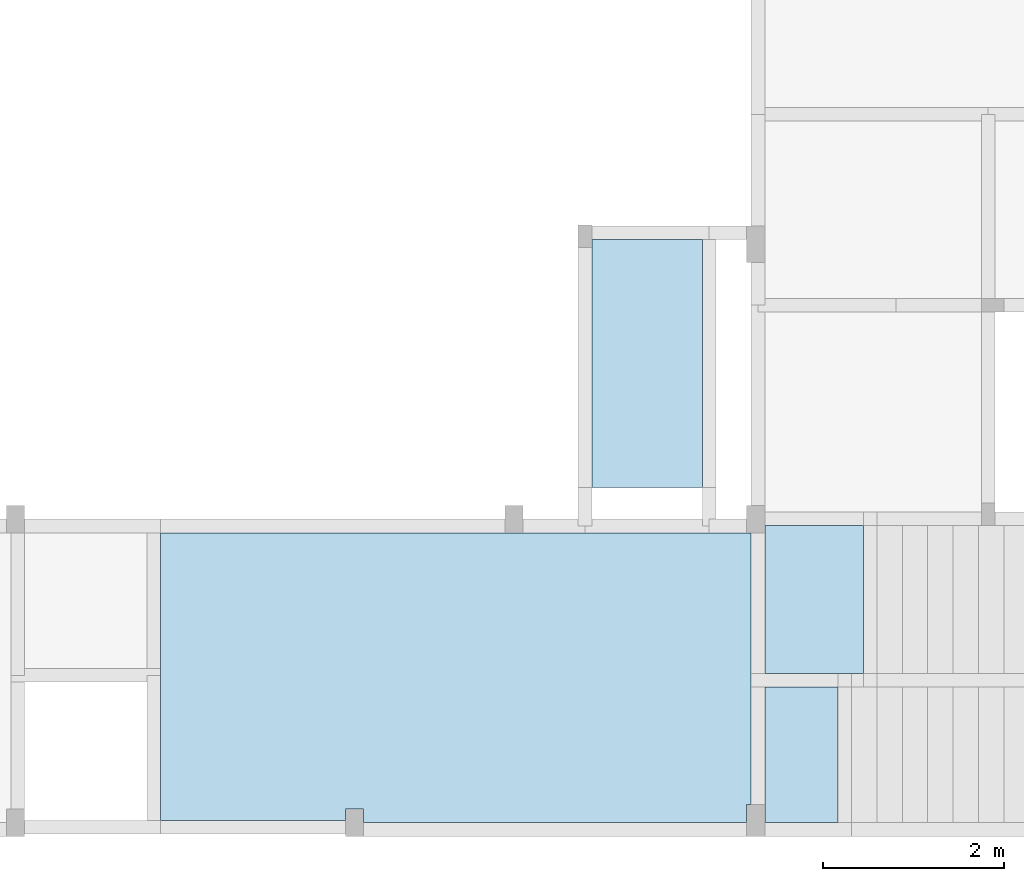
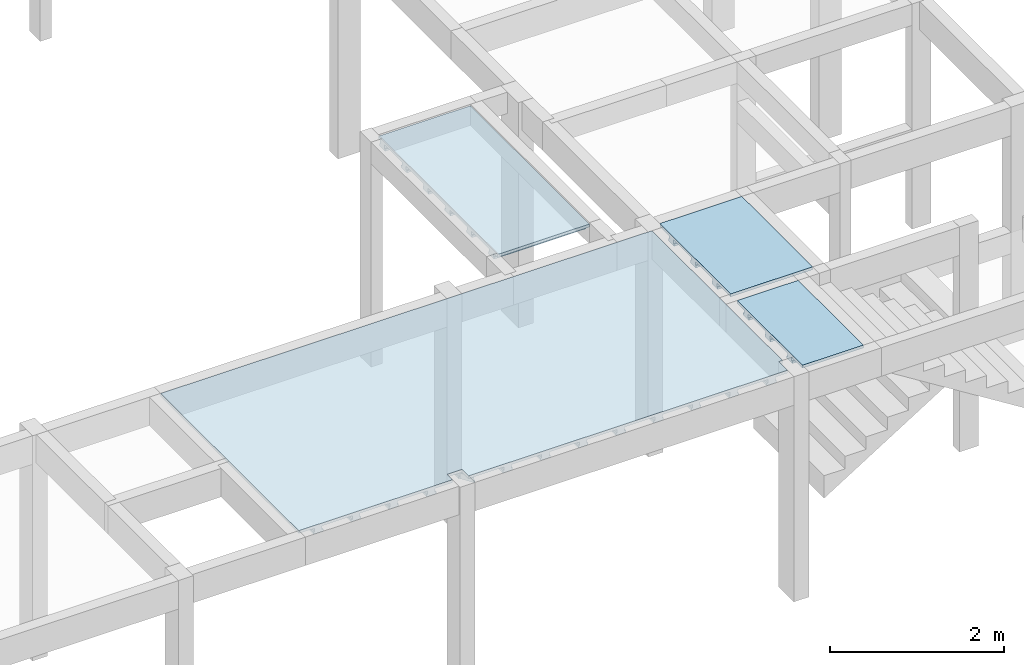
# One storey, part 6 of 11: 4 slabs.
"""IFC4 building model written with IfcOpenShell, lengths in centimetres."""

from ifc_helpers import new_model, si_unit, derived_unit, frame, origin_with_axes, place, context, project, spatial, polyline, outline, extrude, faceted_brep, material, element, save


model = new_model("IFC4")

# Units and contexts
model_context = context("Model", 3, precision=1e-05, world=origin_with_axes(), identifier="Body")
ifc_project = project(units=[si_unit("LENGTHUNIT", "METRE", prefix="CENTI"), si_unit("VOLUMEUNIT", "CUBIC_METRE"), si_unit("AREAUNIT", "SQUARE_METRE"), si_unit("POWERUNIT", "WATT"), si_unit("LUMINOUSFLUXUNIT", "LUMEN"), si_unit("ELECTRICCURRENTUNIT", "AMPERE"), si_unit("PRESSUREUNIT", "PASCAL", prefix="KILO"), si_unit("MASSUNIT", "GRAM", prefix="KILO"), si_unit("PLANEANGLEUNIT", "RADIAN"), derived_unit("VOLUMETRICFLOWRATEUNIT", [(si_unit("LENGTHUNIT", "METRE"), 3), (si_unit("TIMEUNIT", "SECOND"), -1)])], contexts=[model_context])

# Site, building, storey
site_placement = place(None, origin_with_axes())
site = spatial("IfcSite", under=ifc_project, at=site_placement)
building_placement = place(site_placement, frame((0.0, 0.0, -295.0)))
building = spatial("IfcBuilding", under=site, at=building_placement)
placement_1 = place(building_placement, origin_with_axes())
placement_2 = place(placement_1, frame((0.0, 0.0, 101.0), z_axis=(0.0, 0.0, 1.0), x_axis=(1.0, 0.0, 0.0)))
placement_3 = place(placement_2, frame((0.0, 0.0, 204.0), z_axis=(0.0, 0.0, 1.0), x_axis=(1.0, 0.0, 0.0)))
storey_placement = place(placement_3, frame((0.0, 0.0, 292.0), z_axis=(0.0, 0.0, 1.0), x_axis=(1.0, 0.0, 0.0)))
storey = spatial("IfcBuildingStorey", under=building, at=storey_placement, Name="PAVTO 01", CompositionType="ELEMENT", Elevation=302.0)

# Slabs
ifc_material = material(Name="Concreto")
slab_1_placement = place(storey_placement, frame((3390.7205, -6657.4055, -2.0), z_axis=(0.0, 0.0, 1.0), x_axis=(1.0, 0.0, 0.0)))
element("IfcSlab", 1, at=slab_1_placement, inside=storey, material=ifc_material, Name="L111", PredefinedType="FLOOR", context=model_context, shape_type="SolidModel", body=[
    extrude(outline(polyline([(60.989, 136.854), (-60.989, 136.854), (-60.989, -136.855), (60.99, -136.855), (60.989, 136.854), (60.989, 136.854)])), frame((-0.0005, 0.0005, -4.0), z_axis=(0.0, 0.0, 1.0), x_axis=(1.0, 0.0, 0.0)), (0.0, 0.0, 1.0), 4.0),
    faceted_brep([(-60.9895, -116.8545, -12.0), (60.989, -116.8545, -12.0), (60.989, -126.8545, -12.0), (-60.9895, -126.8545, -12.0), (-60.9895, -126.8545, -4.0), (60.989, -126.8545, -4.0), (60.989, -116.8545, -4.0), (-60.9895, -116.8545, -4.0)], [[[0, 1, 2, 3]], [[4, 5, 6, 7]], [[4, 3, 5]], [[3, 2, 5]], [[5, 2, 6]], [[2, 1, 6]], [[6, 1, 7]], [[1, 0, 7]], [[7, 0, 4]], [[0, 3, 4]]]),
    faceted_brep([(-60.9895, -115.3545, -12.0), (60.989, -115.3545, -12.0), (60.989, -116.8545, -12.0), (-60.9895, -116.8545, -12.0), (-60.9895, -116.8545, -9.0), (60.989, -116.8545, -9.0), (60.989, -115.3545, -9.0), (-60.9895, -115.3545, -9.0)], [[[0, 1, 2, 3]], [[4, 5, 6, 7]], [[4, 3, 5]], [[3, 2, 5]], [[5, 2, 6]], [[2, 1, 6]], [[6, 1, 7]], [[1, 0, 7]], [[7, 0, 4]], [[0, 3, 4]]]),
    faceted_brep([(-60.9895, -126.8545, -12.0), (60.989, -126.8545, -12.0), (60.989, -128.3545, -12.0), (-60.9895, -128.3545, -12.0), (-60.9895, -128.3545, -9.0), (60.989, -128.3545, -9.0), (60.989, -126.8545, -9.0), (-60.9895, -126.8545, -9.0)], [[[0, 1, 2, 3]], [[4, 5, 6, 7]], [[4, 3, 5]], [[3, 2, 5]], [[5, 2, 6]], [[2, 1, 6]], [[6, 1, 7]], [[1, 0, 7]], [[7, 0, 4]], [[0, 3, 4]]]),
    faceted_brep([(-60.9895, -66.8545, -12.0), (60.989, -66.8545, -12.0), (60.989, -76.8545, -12.0), (-60.9895, -76.8545, -12.0), (-60.9895, -76.8545, -4.0), (60.989, -76.8545, -4.0), (60.989, -66.8545, -4.0), (-60.9895, -66.8545, -4.0)], [[[0, 1, 2, 3]], [[4, 5, 6, 7]], [[4, 3, 5]], [[3, 2, 5]], [[5, 2, 6]], [[2, 1, 6]], [[6, 1, 7]], [[1, 0, 7]], [[7, 0, 4]], [[0, 3, 4]]]),
    faceted_brep([(-60.9895, -65.3545, -12.0), (60.989, -65.3545, -12.0), (60.989, -66.8545, -12.0), (-60.9895, -66.8545, -12.0), (-60.9895, -66.8545, -9.0), (60.989, -66.8545, -9.0), (60.989, -65.3545, -9.0), (-60.9895, -65.3545, -9.0)], [[[0, 1, 2, 3]], [[4, 5, 6, 7]], [[4, 3, 5]], [[3, 2, 5]], [[5, 2, 6]], [[2, 1, 6]], [[6, 1, 7]], [[1, 0, 7]], [[7, 0, 4]], [[0, 3, 4]]]),
    faceted_brep([(-60.9895, -76.8545, -12.0), (60.989, -76.8545, -12.0), (60.989, -78.3545, -12.0), (-60.9895, -78.3545, -12.0), (-60.9895, -78.3545, -9.0), (60.989, -78.3545, -9.0), (60.989, -76.8545, -9.0), (-60.9895, -76.8545, -9.0)], [[[0, 1, 2, 3]], [[4, 5, 6, 7]], [[4, 3, 5]], [[3, 2, 5]], [[5, 2, 6]], [[2, 1, 6]], [[6, 1, 7]], [[1, 0, 7]], [[7, 0, 4]], [[0, 3, 4]]]),
    faceted_brep([(-60.9895, -16.8545, -12.0), (60.989, -16.8545, -12.0), (60.989, -26.8545, -12.0), (-60.9895, -26.8545, -12.0), (-60.9895, -26.8545, -4.0), (60.989, -26.8545, -4.0), (60.989, -16.8545, -4.0), (-60.9895, -16.8545, -4.0)], [[[0, 1, 2, 3]], [[4, 5, 6, 7]], [[4, 3, 5]], [[3, 2, 5]], [[5, 2, 6]], [[2, 1, 6]], [[6, 1, 7]], [[1, 0, 7]], [[7, 0, 4]], [[0, 3, 4]]]),
    faceted_brep([(-60.9895, -15.3545, -12.0), (60.989, -15.3545, -12.0), (60.989, -16.8545, -12.0), (-60.9895, -16.8545, -12.0), (-60.9895, -16.8545, -9.0), (60.989, -16.8545, -9.0), (60.989, -15.3545, -9.0), (-60.9895, -15.3545, -9.0)], [[[0, 1, 2, 3]], [[4, 5, 6, 7]], [[4, 3, 5]], [[3, 2, 5]], [[5, 2, 6]], [[2, 1, 6]], [[6, 1, 7]], [[1, 0, 7]], [[7, 0, 4]], [[0, 3, 4]]]),
    faceted_brep([(-60.9895, -26.8545, -12.0), (60.989, -26.8545, -12.0), (60.989, -28.3545, -12.0), (-60.9895, -28.3545, -12.0), (-60.9895, -28.3545, -9.0), (60.989, -28.3545, -9.0), (60.989, -26.8545, -9.0), (-60.9895, -26.8545, -9.0)], [[[0, 1, 2, 3]], [[4, 5, 6, 7]], [[4, 3, 5]], [[3, 2, 5]], [[5, 2, 6]], [[2, 1, 6]], [[6, 1, 7]], [[1, 0, 7]], [[7, 0, 4]], [[0, 3, 4]]]),
    faceted_brep([(-60.9895, 33.1455, -12.0), (60.989, 33.1455, -12.0), (60.989, 23.1455, -12.0), (-60.9895, 23.1455, -12.0), (-60.9895, 23.1455, -4.0), (60.989, 23.1455, -4.0), (60.989, 33.1455, -4.0), (-60.9895, 33.1455, -4.0)], [[[0, 1, 2, 3]], [[4, 5, 6, 7]], [[4, 3, 5]], [[3, 2, 5]], [[5, 2, 6]], [[2, 1, 6]], [[6, 1, 7]], [[1, 0, 7]], [[7, 0, 4]], [[0, 3, 4]]]),
    faceted_brep([(-60.9895, 34.6455, -12.0), (60.989, 34.6455, -12.0), (60.989, 33.1455, -12.0), (-60.9895, 33.1455, -12.0), (-60.9895, 33.1455, -9.0), (60.989, 33.1455, -9.0), (60.989, 34.6455, -9.0), (-60.9895, 34.6455, -9.0)], [[[0, 1, 2, 3]], [[4, 5, 6, 7]], [[4, 3, 5]], [[3, 2, 5]], [[5, 2, 6]], [[2, 1, 6]], [[6, 1, 7]], [[1, 0, 7]], [[7, 0, 4]], [[0, 3, 4]]]),
    faceted_brep([(-60.9895, 23.1455, -12.0), (60.989, 23.1455, -12.0), (60.989, 21.6455, -12.0), (-60.9895, 21.6455, -12.0), (-60.9895, 21.6455, -9.0), (60.989, 21.6455, -9.0), (60.989, 23.1455, -9.0), (-60.9895, 23.1455, -9.0)], [[[0, 1, 2, 3]], [[4, 5, 6, 7]], [[4, 3, 5]], [[3, 2, 5]], [[5, 2, 6]], [[2, 1, 6]], [[6, 1, 7]], [[1, 0, 7]], [[7, 0, 4]], [[0, 3, 4]]]),
    faceted_brep([(-60.9895, 83.1455, -12.0), (60.989, 83.1455, -12.0), (60.989, 73.1455, -12.0), (-60.9895, 73.1455, -12.0), (-60.9895, 73.1455, -4.0), (60.989, 73.1455, -4.0), (60.989, 83.1455, -4.0), (-60.9895, 83.1455, -4.0)], [[[0, 1, 2, 3]], [[4, 5, 6, 7]], [[4, 3, 5]], [[3, 2, 5]], [[5, 2, 6]], [[2, 1, 6]], [[6, 1, 7]], [[1, 0, 7]], [[7, 0, 4]], [[0, 3, 4]]]),
    faceted_brep([(-60.9895, 84.6455, -12.0), (60.989, 84.6455, -12.0), (60.989, 83.1455, -12.0), (-60.9895, 83.1455, -12.0), (-60.9895, 83.1455, -9.0), (60.989, 83.1455, -9.0), (60.989, 84.6455, -9.0), (-60.9895, 84.6455, -9.0)], [[[0, 1, 2, 3]], [[4, 5, 6, 7]], [[4, 3, 5]], [[3, 2, 5]], [[5, 2, 6]], [[2, 1, 6]], [[6, 1, 7]], [[1, 0, 7]], [[7, 0, 4]], [[0, 3, 4]]]),
    faceted_brep([(-60.9895, 73.1455, -12.0), (60.989, 73.1455, -12.0), (60.989, 71.6455, -12.0), (-60.9895, 71.6455, -12.0), (-60.9895, 71.6455, -9.0), (60.989, 71.6455, -9.0), (60.989, 73.1455, -9.0), (-60.9895, 73.1455, -9.0)], [[[0, 1, 2, 3]], [[4, 5, 6, 7]], [[4, 3, 5]], [[3, 2, 5]], [[5, 2, 6]], [[2, 1, 6]], [[6, 1, 7]], [[1, 0, 7]], [[7, 0, 4]], [[0, 3, 4]]]),
    faceted_brep([(-60.9895, 133.1455, -12.0), (60.989, 133.1455, -12.0), (60.989, 123.1455, -12.0), (-60.9895, 123.1455, -12.0), (-60.9895, 123.1455, -4.0), (60.989, 123.1455, -4.0), (60.989, 133.1455, -4.0), (-60.9895, 133.1455, -4.0)], [[[0, 1, 2, 3]], [[4, 5, 6, 7]], [[4, 3, 5]], [[3, 2, 5]], [[5, 2, 6]], [[2, 1, 6]], [[6, 1, 7]], [[1, 0, 7]], [[7, 0, 4]], [[0, 3, 4]]]),
    faceted_brep([(-60.9895, 134.6455, -12.0), (60.989, 134.6455, -12.0), (60.989, 133.1455, -12.0), (-60.9895, 133.1455, -12.0), (-60.9895, 133.1455, -9.0), (60.989, 133.1455, -9.0), (60.989, 134.6455, -9.0), (-60.9895, 134.6455, -9.0)], [[[0, 1, 2, 3]], [[4, 5, 6, 7]], [[4, 3, 5]], [[3, 2, 5]], [[5, 2, 6]], [[2, 1, 6]], [[6, 1, 7]], [[1, 0, 7]], [[7, 0, 4]], [[0, 3, 4]]]),
    faceted_brep([(-60.9895, 123.1455, -12.0), (60.989, 123.1455, -12.0), (60.989, 121.6455, -12.0), (-60.9895, 121.6455, -12.0), (-60.9895, 121.6455, -9.0), (60.989, 121.6455, -9.0), (60.989, 123.1455, -9.0), (-60.9895, 123.1455, -9.0)], [[[0, 1, 2, 3]], [[4, 5, 6, 7]], [[4, 3, 5]], [[3, 2, 5]], [[5, 2, 6]], [[2, 1, 6]], [[6, 1, 7]], [[1, 0, 7]], [[7, 0, 4]], [[0, 3, 4]]]),
])
slab_2_placement = place(storey_placement, frame((3179.665, -7004.255, 0.0), z_axis=(0.0, 0.0, 1.0), x_axis=(1.0, 0.0, 0.0)))
element("IfcSlab", 2, at=slab_2_placement, inside=storey, material=ifc_material, Name="L119", PredefinedType="FLOOR", context=model_context, shape_type="SolidModel", body=[
    extrude(outline(polyline([(321.065, -140.055), (326.064, -140.054), (326.064, 160.055), (-326.064, 160.054), (-326.064, -157.594), (-122.125, -157.594), (-122.125, -145.055), (-102.125, -145.055), (-102.125, -160.055), (321.065, -160.055), (321.065, -140.055), (321.065, -140.055)])), frame((0.0, 0.0, -4.0), z_axis=(0.0, 0.0, 1.0), x_axis=(1.0, 0.0, 0.0)), (0.0, 0.0, 1.0), 4.0),
    faceted_brep([(-5.0, -160.055, -12.0), (-5.0, 160.0545, -12.0), (5.0, 160.0545, -12.0), (5.0, -160.055, -12.0), (5.0, -160.055, -4.0), (5.0, 160.0545, -4.0), (-5.0, 160.0545, -4.0), (-5.0, -160.055, -4.0)], [[[0, 1, 2, 3]], [[4, 5, 6, 7]], [[4, 3, 5]], [[3, 2, 5]], [[5, 2, 6]], [[2, 1, 6]], [[6, 1, 7]], [[1, 0, 7]], [[7, 0, 4]], [[0, 3, 4]]]),
    faceted_brep([(-6.5, -160.055, -12.0), (-6.5, 160.0545, -12.0), (-5.0, 160.0545, -12.0), (-5.0, -160.055, -12.0), (-5.0, -160.055, -9.0), (-5.0, 160.0545, -9.0), (-6.5, 160.0545, -9.0), (-6.5, -160.055, -9.0)], [[[0, 1, 2, 3]], [[4, 5, 6, 7]], [[4, 3, 5]], [[3, 2, 5]], [[5, 2, 6]], [[2, 1, 6]], [[6, 1, 7]], [[1, 0, 7]], [[7, 0, 4]], [[0, 3, 4]]]),
    faceted_brep([(5.0, -160.055, -12.0), (5.0, 160.0545, -12.0), (6.5, 160.0545, -12.0), (6.5, -160.055, -12.0), (6.5, -160.055, -9.0), (6.5, 160.0545, -9.0), (5.0, 160.0545, -9.0), (5.0, -160.055, -9.0)], [[[0, 1, 2, 3]], [[4, 5, 6, 7]], [[4, 3, 5]], [[3, 2, 5]], [[5, 2, 6]], [[2, 1, 6]], [[6, 1, 7]], [[1, 0, 7]], [[7, 0, 4]], [[0, 3, 4]]]),
    faceted_brep([(-55.0, -160.055, -12.0), (-55.0, 160.0545, -12.0), (-45.0, 160.0545, -12.0), (-45.0, -160.055, -12.0), (-45.0, -160.055, -4.0), (-45.0, 160.0545, -4.0), (-55.0, 160.0545, -4.0), (-55.0, -160.055, -4.0)], [[[0, 1, 2, 3]], [[4, 5, 6, 7]], [[4, 3, 5]], [[3, 2, 5]], [[5, 2, 6]], [[2, 1, 6]], [[6, 1, 7]], [[1, 0, 7]], [[7, 0, 4]], [[0, 3, 4]]]),
    faceted_brep([(-56.5, -160.055, -12.0), (-56.5, 160.0545, -12.0), (-55.0, 160.0545, -12.0), (-55.0, -160.055, -12.0), (-55.0, -160.055, -9.0), (-55.0, 160.0545, -9.0), (-56.5, 160.0545, -9.0), (-56.5, -160.055, -9.0)], [[[0, 1, 2, 3]], [[4, 5, 6, 7]], [[4, 3, 5]], [[3, 2, 5]], [[5, 2, 6]], [[2, 1, 6]], [[6, 1, 7]], [[1, 0, 7]], [[7, 0, 4]], [[0, 3, 4]]]),
    faceted_brep([(-45.0, -160.055, -12.0), (-45.0, 160.0545, -12.0), (-43.5, 160.0545, -12.0), (-43.5, -160.055, -12.0), (-43.5, -160.055, -9.0), (-43.5, 160.0545, -9.0), (-45.0, 160.0545, -9.0), (-45.0, -160.055, -9.0)], [[[0, 1, 2, 3]], [[4, 5, 6, 7]], [[4, 3, 5]], [[3, 2, 5]], [[5, 2, 6]], [[2, 1, 6]], [[6, 1, 7]], [[1, 0, 7]], [[7, 0, 4]], [[0, 3, 4]]]),
    faceted_brep([(-105.0, -145.055, -12.0), (-105.0, 160.0545, -12.0), (-95.0, 160.0545, -12.0), (-95.0, -160.055, -12.0), (-95.0, -160.055, -4.0), (-95.0, 160.0545, -4.0), (-105.0, 160.0545, -4.0), (-105.0, -145.055, -4.0)], [[[0, 1, 2, 3]], [[4, 5, 6, 7]], [[4, 3, 5]], [[3, 2, 5]], [[5, 2, 6]], [[2, 1, 6]], [[6, 1, 7]], [[1, 0, 7]], [[7, 0, 4]], [[0, 3, 4]]]),
    faceted_brep([(-106.5, -145.055, -12.0), (-106.5, 160.0545, -12.0), (-105.0, 160.0545, -12.0), (-105.0, -145.055, -12.0), (-105.0, -145.055, -9.0), (-105.0, 160.0545, -9.0), (-106.5, 160.0545, -9.0), (-106.5, -145.055, -9.0)], [[[0, 1, 2, 3]], [[4, 5, 6, 7]], [[4, 3, 5]], [[3, 2, 5]], [[5, 2, 6]], [[2, 1, 6]], [[6, 1, 7]], [[1, 0, 7]], [[7, 0, 4]], [[0, 3, 4]]]),
    faceted_brep([(-95.0, -160.055, -12.0), (-95.0, 160.0545, -12.0), (-93.5, 160.0545, -12.0), (-93.5, -160.055, -12.0), (-93.5, -160.055, -9.0), (-93.5, 160.0545, -9.0), (-95.0, 160.0545, -9.0), (-95.0, -160.055, -9.0)], [[[0, 1, 2, 3]], [[4, 5, 6, 7]], [[4, 3, 5]], [[3, 2, 5]], [[5, 2, 6]], [[2, 1, 6]], [[6, 1, 7]], [[1, 0, 7]], [[7, 0, 4]], [[0, 3, 4]]]),
    faceted_brep([(-155.0, -157.594, -12.0), (-155.0, 160.0545, -12.0), (-145.0, 160.0545, -12.0), (-145.0, -157.594, -12.0), (-145.0, -157.594, -4.0), (-145.0, 160.0545, -4.0), (-155.0, 160.0545, -4.0), (-155.0, -157.594, -4.0)], [[[0, 1, 2, 3]], [[4, 5, 6, 7]], [[4, 3, 5]], [[3, 2, 5]], [[5, 2, 6]], [[2, 1, 6]], [[6, 1, 7]], [[1, 0, 7]], [[7, 0, 4]], [[0, 3, 4]]]),
    faceted_brep([(-156.5, -157.594, -12.0), (-156.5, 160.0545, -12.0), (-155.0, 160.0545, -12.0), (-155.0, -157.594, -12.0), (-155.0, -157.594, -9.0), (-155.0, 160.0545, -9.0), (-156.5, 160.0545, -9.0), (-156.5, -157.594, -9.0)], [[[0, 1, 2, 3]], [[4, 5, 6, 7]], [[4, 3, 5]], [[3, 2, 5]], [[5, 2, 6]], [[2, 1, 6]], [[6, 1, 7]], [[1, 0, 7]], [[7, 0, 4]], [[0, 3, 4]]]),
    faceted_brep([(-145.0, -157.594, -12.0), (-145.0, 160.0545, -12.0), (-143.5, 160.0545, -12.0), (-143.5, -157.594, -12.0), (-143.5, -157.594, -9.0), (-143.5, 160.0545, -9.0), (-145.0, 160.0545, -9.0), (-145.0, -157.594, -9.0)], [[[0, 1, 2, 3]], [[4, 5, 6, 7]], [[4, 3, 5]], [[3, 2, 5]], [[5, 2, 6]], [[2, 1, 6]], [[6, 1, 7]], [[1, 0, 7]], [[7, 0, 4]], [[0, 3, 4]]]),
    faceted_brep([(-205.0, -157.594, -12.0), (-205.0, 160.0545, -12.0), (-195.0, 160.0545, -12.0), (-195.0, -157.594, -12.0), (-195.0, -157.594, -4.0), (-195.0, 160.0545, -4.0), (-205.0, 160.0545, -4.0), (-205.0, -157.594, -4.0)], [[[0, 1, 2, 3]], [[4, 5, 6, 7]], [[4, 3, 5]], [[3, 2, 5]], [[5, 2, 6]], [[2, 1, 6]], [[6, 1, 7]], [[1, 0, 7]], [[7, 0, 4]], [[0, 3, 4]]]),
    faceted_brep([(-206.5, -157.594, -12.0), (-206.5, 160.0545, -12.0), (-205.0, 160.0545, -12.0), (-205.0, -157.594, -12.0), (-205.0, -157.594, -9.0), (-205.0, 160.0545, -9.0), (-206.5, 160.0545, -9.0), (-206.5, -157.594, -9.0)], [[[0, 1, 2, 3]], [[4, 5, 6, 7]], [[4, 3, 5]], [[3, 2, 5]], [[5, 2, 6]], [[2, 1, 6]], [[6, 1, 7]], [[1, 0, 7]], [[7, 0, 4]], [[0, 3, 4]]]),
    faceted_brep([(-195.0, -157.594, -12.0), (-195.0, 160.0545, -12.0), (-193.5, 160.0545, -12.0), (-193.5, -157.594, -12.0), (-193.5, -157.594, -9.0), (-193.5, 160.0545, -9.0), (-195.0, 160.0545, -9.0), (-195.0, -157.594, -9.0)], [[[0, 1, 2, 3]], [[4, 5, 6, 7]], [[4, 3, 5]], [[3, 2, 5]], [[5, 2, 6]], [[2, 1, 6]], [[6, 1, 7]], [[1, 0, 7]], [[7, 0, 4]], [[0, 3, 4]]]),
    faceted_brep([(-255.0, -157.594, -12.0), (-255.0, 160.0545, -12.0), (-245.0, 160.0545, -12.0), (-245.0, -157.594, -12.0), (-245.0, -157.594, -4.0), (-245.0, 160.0545, -4.0), (-255.0, 160.0545, -4.0), (-255.0, -157.594, -4.0)], [[[0, 1, 2, 3]], [[4, 5, 6, 7]], [[4, 3, 5]], [[3, 2, 5]], [[5, 2, 6]], [[2, 1, 6]], [[6, 1, 7]], [[1, 0, 7]], [[7, 0, 4]], [[0, 3, 4]]]),
    faceted_brep([(-256.5, -157.594, -12.0), (-256.5, 160.0545, -12.0), (-255.0, 160.0545, -12.0), (-255.0, -157.594, -12.0), (-255.0, -157.594, -9.0), (-255.0, 160.0545, -9.0), (-256.5, 160.0545, -9.0), (-256.5, -157.594, -9.0)], [[[0, 1, 2, 3]], [[4, 5, 6, 7]], [[4, 3, 5]], [[3, 2, 5]], [[5, 2, 6]], [[2, 1, 6]], [[6, 1, 7]], [[1, 0, 7]], [[7, 0, 4]], [[0, 3, 4]]]),
    faceted_brep([(-245.0, -157.594, -12.0), (-245.0, 160.0545, -12.0), (-243.5, 160.0545, -12.0), (-243.5, -157.594, -12.0), (-243.5, -157.594, -9.0), (-243.5, 160.0545, -9.0), (-245.0, 160.0545, -9.0), (-245.0, -157.594, -9.0)], [[[0, 1, 2, 3]], [[4, 5, 6, 7]], [[4, 3, 5]], [[3, 2, 5]], [[5, 2, 6]], [[2, 1, 6]], [[6, 1, 7]], [[1, 0, 7]], [[7, 0, 4]], [[0, 3, 4]]]),
    faceted_brep([(-305.0, -157.594, -12.0), (-305.0, 160.0545, -12.0), (-295.0, 160.0545, -12.0), (-295.0, -157.594, -12.0), (-295.0, -157.594, -4.0), (-295.0, 160.0545, -4.0), (-305.0, 160.0545, -4.0), (-305.0, -157.594, -4.0)], [[[0, 1, 2, 3]], [[4, 5, 6, 7]], [[4, 3, 5]], [[3, 2, 5]], [[5, 2, 6]], [[2, 1, 6]], [[6, 1, 7]], [[1, 0, 7]], [[7, 0, 4]], [[0, 3, 4]]]),
    faceted_brep([(-306.5, -157.594, -12.0), (-306.5, 160.0545, -12.0), (-305.0, 160.0545, -12.0), (-305.0, -157.594, -12.0), (-305.0, -157.594, -9.0), (-305.0, 160.0545, -9.0), (-306.5, 160.0545, -9.0), (-306.5, -157.594, -9.0)], [[[0, 1, 2, 3]], [[4, 5, 6, 7]], [[4, 3, 5]], [[3, 2, 5]], [[5, 2, 6]], [[2, 1, 6]], [[6, 1, 7]], [[1, 0, 7]], [[7, 0, 4]], [[0, 3, 4]]]),
    faceted_brep([(-295.0, -157.594, -12.0), (-295.0, 160.0545, -12.0), (-293.5, 160.0545, -12.0), (-293.5, -157.594, -12.0), (-293.5, -157.594, -9.0), (-293.5, 160.0545, -9.0), (-295.0, 160.0545, -9.0), (-295.0, -157.594, -9.0)], [[[0, 1, 2, 3]], [[4, 5, 6, 7]], [[4, 3, 5]], [[3, 2, 5]], [[5, 2, 6]], [[2, 1, 6]], [[6, 1, 7]], [[1, 0, 7]], [[7, 0, 4]], [[0, 3, 4]]]),
    faceted_brep([(45.0, -160.055, -12.0), (45.0, 160.0545, -12.0), (55.0, 160.0545, -12.0), (55.0, -160.055, -12.0), (55.0, -160.055, -4.0), (55.0, 160.0545, -4.0), (45.0, 160.0545, -4.0), (45.0, -160.055, -4.0)], [[[0, 1, 2, 3]], [[4, 5, 6, 7]], [[4, 3, 5]], [[3, 2, 5]], [[5, 2, 6]], [[2, 1, 6]], [[6, 1, 7]], [[1, 0, 7]], [[7, 0, 4]], [[0, 3, 4]]]),
    faceted_brep([(43.5, -160.055, -12.0), (43.5, 160.0545, -12.0), (45.0, 160.0545, -12.0), (45.0, -160.055, -12.0), (45.0, -160.055, -9.0), (45.0, 160.0545, -9.0), (43.5, 160.0545, -9.0), (43.5, -160.055, -9.0)], [[[0, 1, 2, 3]], [[4, 5, 6, 7]], [[4, 3, 5]], [[3, 2, 5]], [[5, 2, 6]], [[2, 1, 6]], [[6, 1, 7]], [[1, 0, 7]], [[7, 0, 4]], [[0, 3, 4]]]),
    faceted_brep([(55.0, -160.055, -12.0), (55.0, 160.0545, -12.0), (56.5, 160.0545, -12.0), (56.5, -160.055, -12.0), (56.5, -160.055, -9.0), (56.5, 160.0545, -9.0), (55.0, 160.0545, -9.0), (55.0, -160.055, -9.0)], [[[0, 1, 2, 3]], [[4, 5, 6, 7]], [[4, 3, 5]], [[3, 2, 5]], [[5, 2, 6]], [[2, 1, 6]], [[6, 1, 7]], [[1, 0, 7]], [[7, 0, 4]], [[0, 3, 4]]]),
    faceted_brep([(95.0, -160.055, -12.0), (95.0, 160.0545, -12.0), (105.0, 160.0545, -12.0), (105.0, -160.055, -12.0), (105.0, -160.055, -4.0), (105.0, 160.0545, -4.0), (95.0, 160.0545, -4.0), (95.0, -160.055, -4.0)], [[[0, 1, 2, 3]], [[4, 5, 6, 7]], [[4, 3, 5]], [[3, 2, 5]], [[5, 2, 6]], [[2, 1, 6]], [[6, 1, 7]], [[1, 0, 7]], [[7, 0, 4]], [[0, 3, 4]]]),
    faceted_brep([(93.5, -160.055, -12.0), (93.5, 160.0545, -12.0), (95.0, 160.0545, -12.0), (95.0, -160.055, -12.0), (95.0, -160.055, -9.0), (95.0, 160.0545, -9.0), (93.5, 160.0545, -9.0), (93.5, -160.055, -9.0)], [[[0, 1, 2, 3]], [[4, 5, 6, 7]], [[4, 3, 5]], [[3, 2, 5]], [[5, 2, 6]], [[2, 1, 6]], [[6, 1, 7]], [[1, 0, 7]], [[7, 0, 4]], [[0, 3, 4]]]),
    faceted_brep([(105.0, -160.055, -12.0), (105.0, 160.0545, -12.0), (106.5, 160.0545, -12.0), (106.5, -160.055, -12.0), (106.5, -160.055, -9.0), (106.5, 160.0545, -9.0), (105.0, 160.0545, -9.0), (105.0, -160.055, -9.0)], [[[0, 1, 2, 3]], [[4, 5, 6, 7]], [[4, 3, 5]], [[3, 2, 5]], [[5, 2, 6]], [[2, 1, 6]], [[6, 1, 7]], [[1, 0, 7]], [[7, 0, 4]], [[0, 3, 4]]]),
    faceted_brep([(145.0, -160.055, -12.0), (145.0, 160.0545, -12.0), (155.0, 160.0545, -12.0), (155.0, -160.055, -12.0), (155.0, -160.055, -4.0), (155.0, 160.0545, -4.0), (145.0, 160.0545, -4.0), (145.0, -160.055, -4.0)], [[[0, 1, 2, 3]], [[4, 5, 6, 7]], [[4, 3, 5]], [[3, 2, 5]], [[5, 2, 6]], [[2, 1, 6]], [[6, 1, 7]], [[1, 0, 7]], [[7, 0, 4]], [[0, 3, 4]]]),
    faceted_brep([(143.5, -160.055, -12.0), (143.5, 160.0545, -12.0), (145.0, 160.0545, -12.0), (145.0, -160.055, -12.0), (145.0, -160.055, -9.0), (145.0, 160.0545, -9.0), (143.5, 160.0545, -9.0), (143.5, -160.055, -9.0)], [[[0, 1, 2, 3]], [[4, 5, 6, 7]], [[4, 3, 5]], [[3, 2, 5]], [[5, 2, 6]], [[2, 1, 6]], [[6, 1, 7]], [[1, 0, 7]], [[7, 0, 4]], [[0, 3, 4]]]),
    faceted_brep([(155.0, -160.055, -12.0), (155.0, 160.0545, -12.0), (156.5, 160.0545, -12.0), (156.5, -160.055, -12.0), (156.5, -160.055, -9.0), (156.5, 160.0545, -9.0), (155.0, 160.0545, -9.0), (155.0, -160.055, -9.0)], [[[0, 1, 2, 3]], [[4, 5, 6, 7]], [[4, 3, 5]], [[3, 2, 5]], [[5, 2, 6]], [[2, 1, 6]], [[6, 1, 7]], [[1, 0, 7]], [[7, 0, 4]], [[0, 3, 4]]]),
    faceted_brep([(195.0, -160.055, -12.0), (195.0, 160.0545, -12.0), (205.0, 160.0545, -12.0), (205.0, -160.055, -12.0), (205.0, -160.055, -4.0), (205.0, 160.0545, -4.0), (195.0, 160.0545, -4.0), (195.0, -160.055, -4.0)], [[[0, 1, 2, 3]], [[4, 5, 6, 7]], [[4, 3, 5]], [[3, 2, 5]], [[5, 2, 6]], [[2, 1, 6]], [[6, 1, 7]], [[1, 0, 7]], [[7, 0, 4]], [[0, 3, 4]]]),
    faceted_brep([(193.5, -160.055, -12.0), (193.5, 160.0545, -12.0), (195.0, 160.0545, -12.0), (195.0, -160.055, -12.0), (195.0, -160.055, -9.0), (195.0, 160.0545, -9.0), (193.5, 160.0545, -9.0), (193.5, -160.055, -9.0)], [[[0, 1, 2, 3]], [[4, 5, 6, 7]], [[4, 3, 5]], [[3, 2, 5]], [[5, 2, 6]], [[2, 1, 6]], [[6, 1, 7]], [[1, 0, 7]], [[7, 0, 4]], [[0, 3, 4]]]),
    faceted_brep([(205.0, -160.055, -12.0), (205.0, 160.0545, -12.0), (206.5, 160.0545, -12.0), (206.5, -160.055, -12.0), (206.5, -160.055, -9.0), (206.5, 160.0545, -9.0), (205.0, 160.0545, -9.0), (205.0, -160.055, -9.0)], [[[0, 1, 2, 3]], [[4, 5, 6, 7]], [[4, 3, 5]], [[3, 2, 5]], [[5, 2, 6]], [[2, 1, 6]], [[6, 1, 7]], [[1, 0, 7]], [[7, 0, 4]], [[0, 3, 4]]]),
    faceted_brep([(245.0, -160.055, -12.0), (245.0, 160.0545, -12.0), (255.0, 160.0545, -12.0), (255.0, -160.055, -12.0), (255.0, -160.055, -4.0), (255.0, 160.0545, -4.0), (245.0, 160.0545, -4.0), (245.0, -160.055, -4.0)], [[[0, 1, 2, 3]], [[4, 5, 6, 7]], [[4, 3, 5]], [[3, 2, 5]], [[5, 2, 6]], [[2, 1, 6]], [[6, 1, 7]], [[1, 0, 7]], [[7, 0, 4]], [[0, 3, 4]]]),
    faceted_brep([(243.5, -160.055, -12.0), (243.5, 160.0545, -12.0), (245.0, 160.0545, -12.0), (245.0, -160.055, -12.0), (245.0, -160.055, -9.0), (245.0, 160.0545, -9.0), (243.5, 160.0545, -9.0), (243.5, -160.055, -9.0)], [[[0, 1, 2, 3]], [[4, 5, 6, 7]], [[4, 3, 5]], [[3, 2, 5]], [[5, 2, 6]], [[2, 1, 6]], [[6, 1, 7]], [[1, 0, 7]], [[7, 0, 4]], [[0, 3, 4]]]),
    faceted_brep([(255.0, -160.055, -12.0), (255.0, 160.0545, -12.0), (256.5, 160.0545, -12.0), (256.5, -160.055, -12.0), (256.5, -160.055, -9.0), (256.5, 160.0545, -9.0), (255.0, 160.0545, -9.0), (255.0, -160.055, -9.0)], [[[0, 1, 2, 3]], [[4, 5, 6, 7]], [[4, 3, 5]], [[3, 2, 5]], [[5, 2, 6]], [[2, 1, 6]], [[6, 1, 7]], [[1, 0, 7]], [[7, 0, 4]], [[0, 3, 4]]]),
    faceted_brep([(295.0, -160.055, -12.0), (295.0, 160.0545, -12.0), (305.0, 160.0545, -12.0), (305.0, -160.055, -12.0), (305.0, -160.055, -4.0), (305.0, 160.0545, -4.0), (295.0, 160.0545, -4.0), (295.0, -160.055, -4.0)], [[[0, 1, 2, 3]], [[4, 5, 6, 7]], [[4, 3, 5]], [[3, 2, 5]], [[5, 2, 6]], [[2, 1, 6]], [[6, 1, 7]], [[1, 0, 7]], [[7, 0, 4]], [[0, 3, 4]]]),
    faceted_brep([(293.5, -160.055, -12.0), (293.5, 160.0545, -12.0), (295.0, 160.0545, -12.0), (295.0, -160.055, -12.0), (295.0, -160.055, -9.0), (295.0, 160.0545, -9.0), (293.5, 160.0545, -9.0), (293.5, -160.055, -9.0)], [[[0, 1, 2, 3]], [[4, 5, 6, 7]], [[4, 3, 5]], [[3, 2, 5]], [[5, 2, 6]], [[2, 1, 6]], [[6, 1, 7]], [[1, 0, 7]], [[7, 0, 4]], [[0, 3, 4]]]),
    faceted_brep([(305.0, -160.055, -12.0), (305.0, 160.0545, -12.0), (306.5, 160.0545, -12.0), (306.5, -160.055, -12.0), (306.5, -160.055, -9.0), (306.5, 160.0545, -9.0), (305.0, 160.0545, -9.0), (305.0, -160.055, -9.0)], [[[0, 1, 2, 3]], [[4, 5, 6, 7]], [[4, 3, 5]], [[3, 2, 5]], [[5, 2, 6]], [[2, 1, 6]], [[6, 1, 7]], [[1, 0, 7]], [[7, 0, 4]], [[0, 3, 4]]]),
])
slab_3_placement = place(storey_placement, frame((3575.16, -6917.8, 0.0), z_axis=(0.0, 0.0, 1.0), x_axis=(1.0, 0.0, 0.0)))
element("IfcSlab", 3, at=slab_3_placement, inside=storey, material=ifc_material, Name="L120", PredefinedType="FLOOR", context=model_context, shape_type="SolidModel", body=[
    extrude(outline(polyline([(54.43, 81.51), (-54.43, 81.51), (-54.429, -81.51), (54.43, -81.51), (54.43, 81.51), (54.43, 81.51)])), frame((0.0, 0.0, -4.0), z_axis=(0.0, 0.0, 1.0), x_axis=(1.0, 0.0, 0.0)), (0.0, 0.0, 1.0), 4.0),
    faceted_brep([(-54.4295, -40.0, -12.0), (54.43, -40.0, -12.0), (54.43, -50.0, -12.0), (-54.4295, -50.0, -12.0), (-54.4295, -50.0, -4.0), (54.43, -50.0, -4.0), (54.43, -40.0, -4.0), (-54.4295, -40.0, -4.0)], [[[0, 1, 2, 3]], [[4, 5, 6, 7]], [[4, 3, 5]], [[3, 2, 5]], [[5, 2, 6]], [[2, 1, 6]], [[6, 1, 7]], [[1, 0, 7]], [[7, 0, 4]], [[0, 3, 4]]]),
    faceted_brep([(-54.4295, -38.5, -12.0), (54.43, -38.5, -12.0), (54.43, -40.0, -12.0), (-54.4295, -40.0, -12.0), (-54.4295, -40.0, -9.0), (54.43, -40.0, -9.0), (54.43, -38.5, -9.0), (-54.4295, -38.5, -9.0)], [[[0, 1, 2, 3]], [[4, 5, 6, 7]], [[4, 3, 5]], [[3, 2, 5]], [[5, 2, 6]], [[2, 1, 6]], [[6, 1, 7]], [[1, 0, 7]], [[7, 0, 4]], [[0, 3, 4]]]),
    faceted_brep([(-54.4295, -50.0, -12.0), (54.43, -50.0, -12.0), (54.43, -51.5, -12.0), (-54.4295, -51.5, -12.0), (-54.4295, -51.5, -9.0), (54.43, -51.5, -9.0), (54.43, -50.0, -9.0), (-54.4295, -50.0, -9.0)], [[[0, 1, 2, 3]], [[4, 5, 6, 7]], [[4, 3, 5]], [[3, 2, 5]], [[5, 2, 6]], [[2, 1, 6]], [[6, 1, 7]], [[1, 0, 7]], [[7, 0, 4]], [[0, 3, 4]]]),
    faceted_brep([(-54.4295, 10.0, -12.0), (54.43, 10.0, -12.0), (54.43, 0.0, -12.0), (-54.4295, 0.0, -12.0), (-54.4295, 0.0, -4.0), (54.43, 0.0, -4.0), (54.43, 10.0, -4.0), (-54.4295, 10.0, -4.0)], [[[0, 1, 2, 3]], [[4, 5, 6, 7]], [[4, 3, 5]], [[3, 2, 5]], [[5, 2, 6]], [[2, 1, 6]], [[6, 1, 7]], [[1, 0, 7]], [[7, 0, 4]], [[0, 3, 4]]]),
    faceted_brep([(-54.4295, 11.5, -12.0), (54.43, 11.5, -12.0), (54.43, 10.0, -12.0), (-54.4295, 10.0, -12.0), (-54.4295, 10.0, -9.0), (54.43, 10.0, -9.0), (54.43, 11.5, -9.0), (-54.4295, 11.5, -9.0)], [[[0, 1, 2, 3]], [[4, 5, 6, 7]], [[4, 3, 5]], [[3, 2, 5]], [[5, 2, 6]], [[2, 1, 6]], [[6, 1, 7]], [[1, 0, 7]], [[7, 0, 4]], [[0, 3, 4]]]),
    faceted_brep([(-54.4295, 0.0, -12.0), (54.43, 0.0, -12.0), (54.43, -1.5, -12.0), (-54.4295, -1.5, -12.0), (-54.4295, -1.5, -9.0), (54.43, -1.5, -9.0), (54.43, 0.0, -9.0), (-54.4295, 0.0, -9.0)], [[[0, 1, 2, 3]], [[4, 5, 6, 7]], [[4, 3, 5]], [[3, 2, 5]], [[5, 2, 6]], [[2, 1, 6]], [[6, 1, 7]], [[1, 0, 7]], [[7, 0, 4]], [[0, 3, 4]]]),
    faceted_brep([(-54.4295, 60.0, -12.0), (54.43, 60.0, -12.0), (54.43, 50.0, -12.0), (-54.4295, 50.0, -12.0), (-54.4295, 50.0, -4.0), (54.43, 50.0, -4.0), (54.43, 60.0, -4.0), (-54.4295, 60.0, -4.0)], [[[0, 1, 2, 3]], [[4, 5, 6, 7]], [[4, 3, 5]], [[3, 2, 5]], [[5, 2, 6]], [[2, 1, 6]], [[6, 1, 7]], [[1, 0, 7]], [[7, 0, 4]], [[0, 3, 4]]]),
    faceted_brep([(-54.4295, 61.5, -12.0), (54.43, 61.5, -12.0), (54.43, 60.0, -12.0), (-54.4295, 60.0, -12.0), (-54.4295, 60.0, -9.0), (54.43, 60.0, -9.0), (54.43, 61.5, -9.0), (-54.4295, 61.5, -9.0)], [[[0, 1, 2, 3]], [[4, 5, 6, 7]], [[4, 3, 5]], [[3, 2, 5]], [[5, 2, 6]], [[2, 1, 6]], [[6, 1, 7]], [[1, 0, 7]], [[7, 0, 4]], [[0, 3, 4]]]),
    faceted_brep([(-54.4295, 50.0, -12.0), (54.43, 50.0, -12.0), (54.43, 48.5, -12.0), (-54.4295, 48.5, -12.0), (-54.4295, 48.5, -9.0), (54.43, 48.5, -9.0), (54.43, 50.0, -9.0), (-54.4295, 50.0, -9.0)], [[[0, 1, 2, 3]], [[4, 5, 6, 7]], [[4, 3, 5]], [[3, 2, 5]], [[5, 2, 6]], [[2, 1, 6]], [[6, 1, 7]], [[1, 0, 7]], [[7, 0, 4]], [[0, 3, 4]]]),
])
slab_4_placement = place(storey_placement, frame((3561.1605, -7089.3095, 0.0), z_axis=(0.0, 0.0, 1.0), x_axis=(1.0, 0.0, 0.0)))
element("IfcSlab", 4, at=slab_4_placement, inside=storey, material=ifc_material, Name="L121", PredefinedType="FLOOR", context=model_context, shape_type="SolidModel", body=[
    extrude(outline(polyline([(40.43, 74.999), (-40.429, 75.0), (-40.429, -74.999), (40.43, -74.999), (40.43, 74.999), (40.43, 74.999)])), frame((-0.0005, -0.0005, -4.0), z_axis=(0.0, 0.0, 1.0), x_axis=(1.0, 0.0, 0.0)), (0.0, 0.0, 1.0), 4.0),
    faceted_brep([(-40.4295, -40.0005, -12.0), (40.4295, -40.0005, -12.0), (40.4295, -50.0005, -12.0), (-40.4295, -50.0005, -12.0), (-40.4295, -50.0005, -4.0), (40.4295, -50.0005, -4.0), (40.4295, -40.0005, -4.0), (-40.4295, -40.0005, -4.0)], [[[0, 1, 2, 3]], [[4, 5, 6, 7]], [[4, 3, 5]], [[3, 2, 5]], [[5, 2, 6]], [[2, 1, 6]], [[6, 1, 7]], [[1, 0, 7]], [[7, 0, 4]], [[0, 3, 4]]]),
    faceted_brep([(-40.4295, -38.5005, -12.0), (40.4295, -38.5005, -12.0), (40.4295, -40.0005, -12.0), (-40.4295, -40.0005, -12.0), (-40.4295, -40.0005, -9.0), (40.4295, -40.0005, -9.0), (40.4295, -38.5005, -9.0), (-40.4295, -38.5005, -9.0)], [[[0, 1, 2, 3]], [[4, 5, 6, 7]], [[4, 3, 5]], [[3, 2, 5]], [[5, 2, 6]], [[2, 1, 6]], [[6, 1, 7]], [[1, 0, 7]], [[7, 0, 4]], [[0, 3, 4]]]),
    faceted_brep([(-40.4295, -50.0005, -12.0), (40.4295, -50.0005, -12.0), (40.4295, -51.5005, -12.0), (-40.4295, -51.5005, -12.0), (-40.4295, -51.5005, -9.0), (40.4295, -51.5005, -9.0), (40.4295, -50.0005, -9.0), (-40.4295, -50.0005, -9.0)], [[[0, 1, 2, 3]], [[4, 5, 6, 7]], [[4, 3, 5]], [[3, 2, 5]], [[5, 2, 6]], [[2, 1, 6]], [[6, 1, 7]], [[1, 0, 7]], [[7, 0, 4]], [[0, 3, 4]]]),
    faceted_brep([(-40.4295, 9.9995, -12.0), (40.4295, 9.9995, -12.0), (40.4295, -0.0005, -12.0), (-40.4295, -0.0005, -12.0), (-40.4295, -0.0005, -4.0), (40.4295, -0.0005, -4.0), (40.4295, 9.9995, -4.0), (-40.4295, 9.9995, -4.0)], [[[0, 1, 2, 3]], [[4, 5, 6, 7]], [[4, 3, 5]], [[3, 2, 5]], [[5, 2, 6]], [[2, 1, 6]], [[6, 1, 7]], [[1, 0, 7]], [[7, 0, 4]], [[0, 3, 4]]]),
    faceted_brep([(-40.4295, 11.4995, -12.0), (40.4295, 11.4995, -12.0), (40.4295, 9.9995, -12.0), (-40.4295, 9.9995, -12.0), (-40.4295, 9.9995, -9.0), (40.4295, 9.9995, -9.0), (40.4295, 11.4995, -9.0), (-40.4295, 11.4995, -9.0)], [[[0, 1, 2, 3]], [[4, 5, 6, 7]], [[4, 3, 5]], [[3, 2, 5]], [[5, 2, 6]], [[2, 1, 6]], [[6, 1, 7]], [[1, 0, 7]], [[7, 0, 4]], [[0, 3, 4]]]),
    faceted_brep([(-40.4295, -0.0005, -12.0), (40.4295, -0.0005, -12.0), (40.4295, -1.5005, -12.0), (-40.4295, -1.5005, -12.0), (-40.4295, -1.5005, -9.0), (40.4295, -1.5005, -9.0), (40.4295, -0.0005, -9.0), (-40.4295, -0.0005, -9.0)], [[[0, 1, 2, 3]], [[4, 5, 6, 7]], [[4, 3, 5]], [[3, 2, 5]], [[5, 2, 6]], [[2, 1, 6]], [[6, 1, 7]], [[1, 0, 7]], [[7, 0, 4]], [[0, 3, 4]]]),
    faceted_brep([(-40.4295, 59.9995, -12.0), (40.4295, 59.9995, -12.0), (40.4295, 49.9995, -12.0), (-40.4295, 49.9995, -12.0), (-40.4295, 49.9995, -4.0), (40.4295, 49.9995, -4.0), (40.4295, 59.9995, -4.0), (-40.4295, 59.9995, -4.0)], [[[0, 1, 2, 3]], [[4, 5, 6, 7]], [[4, 3, 5]], [[3, 2, 5]], [[5, 2, 6]], [[2, 1, 6]], [[6, 1, 7]], [[1, 0, 7]], [[7, 0, 4]], [[0, 3, 4]]]),
    faceted_brep([(-40.4295, 61.4995, -12.0), (40.4295, 61.4995, -12.0), (40.4295, 59.9995, -12.0), (-40.4295, 59.9995, -12.0), (-40.4295, 59.9995, -9.0), (40.4295, 59.9995, -9.0), (40.4295, 61.4995, -9.0), (-40.4295, 61.4995, -9.0)], [[[0, 1, 2, 3]], [[4, 5, 6, 7]], [[4, 3, 5]], [[3, 2, 5]], [[5, 2, 6]], [[2, 1, 6]], [[6, 1, 7]], [[1, 0, 7]], [[7, 0, 4]], [[0, 3, 4]]]),
    faceted_brep([(-40.4295, 49.9995, -12.0), (40.4295, 49.9995, -12.0), (40.4295, 48.4995, -12.0), (-40.4295, 48.4995, -12.0), (-40.4295, 48.4995, -9.0), (40.4295, 48.4995, -9.0), (40.4295, 49.9995, -9.0), (-40.4295, 49.9995, -9.0)], [[[0, 1, 2, 3]], [[4, 5, 6, 7]], [[4, 3, 5]], [[3, 2, 5]], [[5, 2, 6]], [[2, 1, 6]], [[6, 1, 7]], [[1, 0, 7]], [[7, 0, 4]], [[0, 3, 4]]]),
])

save(model, "model.ifc")
